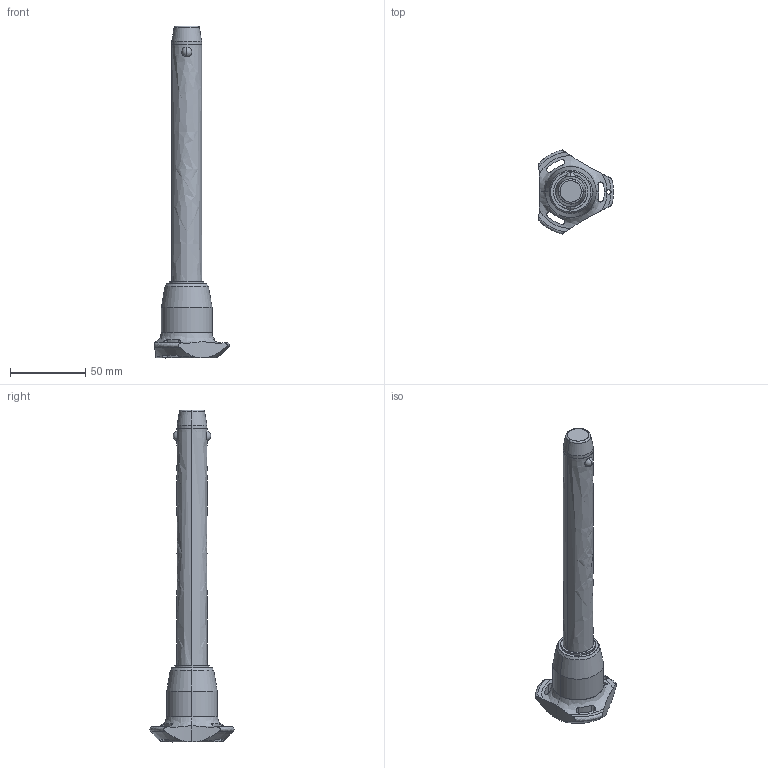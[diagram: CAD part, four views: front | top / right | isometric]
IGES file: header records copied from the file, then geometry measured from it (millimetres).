
Start section: SolidWorks IGES file using analytic representation for surfaces
Global section: file name: C:\Users\ianosborn\Desktop\QR1736_v2\QR1736_v2_20251115_IGES\QR1736.M20-150-T.igs; native system: SolidWorks 2019; preprocessor: SolidWorks 2019; author: IanOsborn; date: 251113.121433; units: millimetre
Bounding box: 50.03 x 56.02 x 221.2 mm (x, y, z)
Surface area: 20392.5 mm2 (no closed solid volume)
Topology: 0 solids, 0 shells, 68 faces, 1382 edges, 1378 vertices
Faces by surface type: revolution 52, bspline 16
